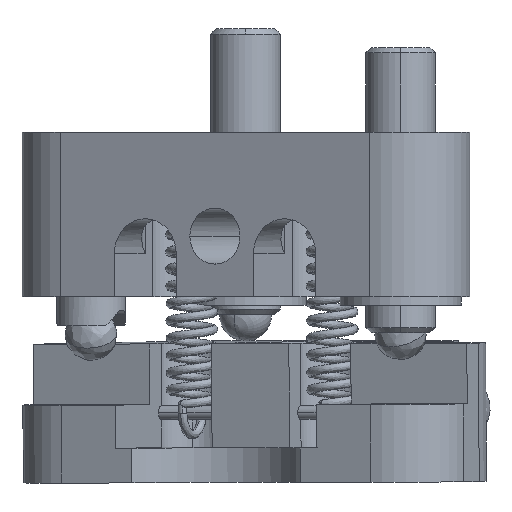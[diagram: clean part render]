
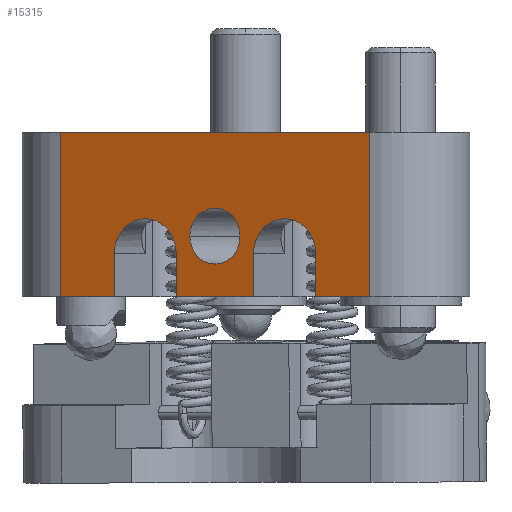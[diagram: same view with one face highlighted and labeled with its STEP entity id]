
A CAD part, front view. The second image highlights one B-rep face of the part: STEP entity #15315.
In plain terms, the highlighted planar face has unit normal (-0.447, -0.895, 0).
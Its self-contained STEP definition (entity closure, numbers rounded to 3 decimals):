
#1214 = CARTESIAN_POINT ( 'NONE',  ( 25.309, -8.509, 0. ) ) ;
#2210 = CARTESIAN_POINT ( 'NONE',  ( 14.911, -3.32, 3.5 ) ) ;
#2490 = CARTESIAN_POINT ( 'NONE',  ( 17.811, -4.768, 3.5 ) ) ;
#2491 = DIRECTION ( 'NONE',  ( -0.895, 0.447, 0. ) ) ;
#2492 = DIRECTION ( 'NONE',  ( 0.447, 0.895, 0. ) ) ;
#2493 = CARTESIAN_POINT ( 'NONE',  ( 16.361, -4.044, 3.5 ) ) ;
#2494 = AXIS2_PLACEMENT_3D ( 'NONE', #2493, #2492, #2491 ) ;
#2495 = CIRCLE ( 'NONE', #2494, 1.621 ) ;
#7166 = CARTESIAN_POINT ( 'NONE',  ( 7.413, 0.421, 0. ) ) ;
#7167 = DIRECTION ( 'NONE',  ( 0.895, -0.447, 0. ) ) ;
#7168 = VECTOR ( 'NONE', #7167, 1000. ) ;
#7169 = CARTESIAN_POINT ( 'NONE',  ( 7.413, 0.421, 0. ) ) ;
#7170 = LINE ( 'NONE', #7169, #7168 ) ;
#7171 = CARTESIAN_POINT ( 'NONE',  ( 10.545, -1.142, 0. ) ) ;
#7278 = CARTESIAN_POINT ( 'NONE',  ( 22.177, -6.947, 0. ) ) ;
#7279 = DIRECTION ( 'NONE',  ( 0.895, -0.447, 0. ) ) ;
#7280 = VECTOR ( 'NONE', #7279, 1000. ) ;
#7281 = CARTESIAN_POINT ( 'NONE',  ( 22.177, -6.947, 0. ) ) ;
#7282 = LINE ( 'NONE', #7281, #7280 ) ;
#7283 = CARTESIAN_POINT ( 'NONE',  ( 14.124, -2.928, 0. ) ) ;
#7284 = CARTESIAN_POINT ( 'NONE',  ( 18.598, -5.161, 0. ) ) ;
#7368 = CARTESIAN_POINT ( 'NONE',  ( 14.124, -2.928, 2.5 ) ) ;
#7369 = DIRECTION ( 'NONE',  ( 0., 0., -1. ) ) ;
#7370 = VECTOR ( 'NONE', #7369, 1000. ) ;
#7371 = CARTESIAN_POINT ( 'NONE',  ( 14.124, -2.928, 0. ) ) ;
#7372 = LINE ( 'NONE', #7371, #7370 ) ;
#7373 = DIRECTION ( 'NONE',  ( 0.895, -0.447, 0. ) ) ;
#7374 = DIRECTION ( 'NONE',  ( -0.447, -0.895, 0. ) ) ;
#7375 = CARTESIAN_POINT ( 'NONE',  ( 28.888, -10.295, 0. ) ) ;
#7376 = AXIS2_PLACEMENT_3D ( 'NONE', #7375, #7374, #7373 ) ;
#7377 = PLANE ( 'NONE',  #7376 ) ;
#7378 = FACE_BOUND ( 'NONE', #15372, .T. ) ;
#7379 = FACE_OUTER_BOUND ( 'NONE', #15316, .T. ) ;
#7385 = DIRECTION ( 'NONE',  ( 0., 0., -1. ) ) ;
#7386 = VECTOR ( 'NONE', #7385, 1000. ) ;
#7387 = CARTESIAN_POINT ( 'NONE',  ( 7.413, 0.421, 0. ) ) ;
#7388 = LINE ( 'NONE', #7387, #7386 ) ;
#7389 = DIRECTION ( 'NONE',  ( 0.895, -0.447, 0. ) ) ;
#7390 = VECTOR ( 'NONE', #7389, 1000. ) ;
#7391 = CARTESIAN_POINT ( 'NONE',  ( 14.124, -2.928, 0. ) ) ;
#7392 = LINE ( 'NONE', #7391, #7390 ) ;
#7400 = DIRECTION ( 'NONE',  ( 0., 0., 1. ) ) ;
#7401 = VECTOR ( 'NONE', #7400, 1000. ) ;
#7402 = CARTESIAN_POINT ( 'NONE',  ( 10.545, -1.142, 0. ) ) ;
#7403 = LINE ( 'NONE', #7402, #7401 ) ;
#7404 = CARTESIAN_POINT ( 'NONE',  ( 10.545, -1.142, 2.5 ) ) ;
#7419 = CARTESIAN_POINT ( 'NONE',  ( 18.598, -5.161, 2.5 ) ) ;
#7420 = DIRECTION ( 'NONE',  ( 0., 0., 1. ) ) ;
#7421 = VECTOR ( 'NONE', #7420, 1000. ) ;
#7422 = CARTESIAN_POINT ( 'NONE',  ( 18.598, -5.161, 0. ) ) ;
#7423 = LINE ( 'NONE', #7422, #7421 ) ;
#7460 = DIRECTION ( 'NONE',  ( -0.895, 0.447, 0. ) ) ;
#7461 = DIRECTION ( 'NONE',  ( 0.447, 0.895, 0. ) ) ;
#7462 = CARTESIAN_POINT ( 'NONE',  ( 16.361, -4.044, 3.5 ) ) ;
#7463 = AXIS2_PLACEMENT_3D ( 'NONE', #7462, #7461, #7460 ) ;
#7464 = CIRCLE ( 'NONE', #7463, 1.621 ) ;
#7465 = DIRECTION ( 'NONE',  ( 0.895, -0.447, 0. ) ) ;
#7466 = DIRECTION ( 'NONE',  ( 0.447, 0.895, 0. ) ) ;
#7467 = CARTESIAN_POINT ( 'NONE',  ( 12.335, -2.035, 2.5 ) ) ;
#7468 = AXIS2_PLACEMENT_3D ( 'NONE', #7467, #7466, #7465 ) ;
#7469 = CIRCLE ( 'NONE', #7468, 2. ) ;
#7499 = CARTESIAN_POINT ( 'NONE',  ( 7.413, 0.421, 9.5 ) ) ;
#7500 = DIRECTION ( 'NONE',  ( -0.895, 0.447, 0. ) ) ;
#7501 = VECTOR ( 'NONE', #7500, 1000. ) ;
#7502 = CARTESIAN_POINT ( 'NONE',  ( 28.888, -10.295, 9.5 ) ) ;
#7503 = LINE ( 'NONE', #7502, #7501 ) ;
#7504 = DIRECTION ( 'NONE',  ( 0., 0., -1. ) ) ;
#7505 = VECTOR ( 'NONE', #7504, 1000. ) ;
#7506 = CARTESIAN_POINT ( 'NONE',  ( 22.177, -6.947, 0. ) ) ;
#7507 = LINE ( 'NONE', #7506, #7505 ) ;
#7508 = CARTESIAN_POINT ( 'NONE',  ( 22.177, -6.947, 2.5 ) ) ;
#7509 = DIRECTION ( 'NONE',  ( 0.895, -0.447, 0. ) ) ;
#7510 = DIRECTION ( 'NONE',  ( 0.447, 0.895, 0. ) ) ;
#7511 = CARTESIAN_POINT ( 'NONE',  ( 20.388, -6.054, 2.5 ) ) ;
#7512 = AXIS2_PLACEMENT_3D ( 'NONE', #7511, #7510, #7509 ) ;
#7513 = CIRCLE ( 'NONE', #7512, 2. ) ;
#13266 = VERTEX_POINT ( 'NONE', #16724 ) ;
#13268 = EDGE_CURVE ( 'NONE', #14056, #13266, #16723, .T. ) ;
#14056 = VERTEX_POINT ( 'NONE', #1214 ) ;
#14231 = VERTEX_POINT ( 'NONE', #2210 ) ;
#14283 = EDGE_CURVE ( 'NONE', #14284, #14231, #2495, .T. ) ;
#14284 = VERTEX_POINT ( 'NONE', #2490 ) ;
#15190 = VERTEX_POINT ( 'NONE', #7171 ) ;
#15192 = EDGE_CURVE ( 'NONE', #15193, #15190, #7170, .T. ) ;
#15193 = VERTEX_POINT ( 'NONE', #7166 ) ;
#15242 = VERTEX_POINT ( 'NONE', #7284 ) ;
#15244 = VERTEX_POINT ( 'NONE', #7283 ) ;
#15247 = EDGE_CURVE ( 'NONE', #15248, #14056, #7282, .T. ) ;
#15248 = VERTEX_POINT ( 'NONE', #7278 ) ;
#15306 = EDGE_CURVE ( 'NONE', #15244, #15242, #7392, .T. ) ;
#15308 = ORIENTED_EDGE ( 'NONE', *, *, #15309, .T. ) ;
#15309 = EDGE_CURVE ( 'NONE', #15391, #15193, #7388, .T. ) ;
#15310 = ORIENTED_EDGE ( 'NONE', *, *, #15192, .T. ) ;
#15311 = ORIENTED_EDGE ( 'NONE', *, *, #15335, .T. ) ;
#15315 = ADVANCED_FACE ( 'NONE', ( #7379, #7378 ), #7377, .T. ) ;
#15316 = EDGE_LOOP ( 'NONE', ( #15317, #15320, #15321, #15324, #15385, #15387, #15388, #15389, #15308, #15310, #15311, #15370 ) ) ;
#15317 = ORIENTED_EDGE ( 'NONE', *, *, #15318, .T. ) ;
#15318 = EDGE_CURVE ( 'NONE', #15319, #15244, #7372, .T. ) ;
#15319 = VERTEX_POINT ( 'NONE', #7368 ) ;
#15320 = ORIENTED_EDGE ( 'NONE', *, *, #15306, .T. ) ;
#15321 = ORIENTED_EDGE ( 'NONE', *, *, #15322, .T. ) ;
#15322 = EDGE_CURVE ( 'NONE', #15242, #15323, #7423, .T. ) ;
#15323 = VERTEX_POINT ( 'NONE', #7419 ) ;
#15324 = ORIENTED_EDGE ( 'NONE', *, *, #15383, .T. ) ;
#15333 = VERTEX_POINT ( 'NONE', #7404 ) ;
#15335 = EDGE_CURVE ( 'NONE', #15190, #15333, #7403, .T. ) ;
#15370 = ORIENTED_EDGE ( 'NONE', *, *, #15371, .T. ) ;
#15371 = EDGE_CURVE ( 'NONE', #15333, #15319, #7469, .T. ) ;
#15372 = EDGE_LOOP ( 'NONE', ( #15373, #15375 ) ) ;
#15373 = ORIENTED_EDGE ( 'NONE', *, *, #15374, .T. ) ;
#15374 = EDGE_CURVE ( 'NONE', #14231, #14284, #7464, .T. ) ;
#15375 = ORIENTED_EDGE ( 'NONE', *, *, #14283, .T. ) ;
#15383 = EDGE_CURVE ( 'NONE', #15323, #15384, #7513, .T. ) ;
#15384 = VERTEX_POINT ( 'NONE', #7508 ) ;
#15385 = ORIENTED_EDGE ( 'NONE', *, *, #15386, .T. ) ;
#15386 = EDGE_CURVE ( 'NONE', #15384, #15248, #7507, .T. ) ;
#15387 = ORIENTED_EDGE ( 'NONE', *, *, #15247, .T. ) ;
#15388 = ORIENTED_EDGE ( 'NONE', *, *, #13268, .T. ) ;
#15389 = ORIENTED_EDGE ( 'NONE', *, *, #15390, .T. ) ;
#15390 = EDGE_CURVE ( 'NONE', #13266, #15391, #7503, .T. ) ;
#15391 = VERTEX_POINT ( 'NONE', #7499 ) ;
#16720 = DIRECTION ( 'NONE',  ( 0., 0., 1. ) ) ;
#16721 = VECTOR ( 'NONE', #16720, 1000. ) ;
#16722 = CARTESIAN_POINT ( 'NONE',  ( 25.309, -8.509, 0. ) ) ;
#16723 = LINE ( 'NONE', #16722, #16721 ) ;
#16724 = CARTESIAN_POINT ( 'NONE',  ( 25.309, -8.509, 9.5 ) ) ;
